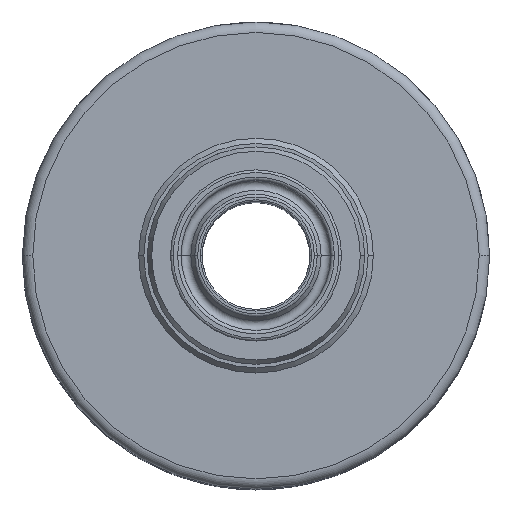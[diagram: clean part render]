
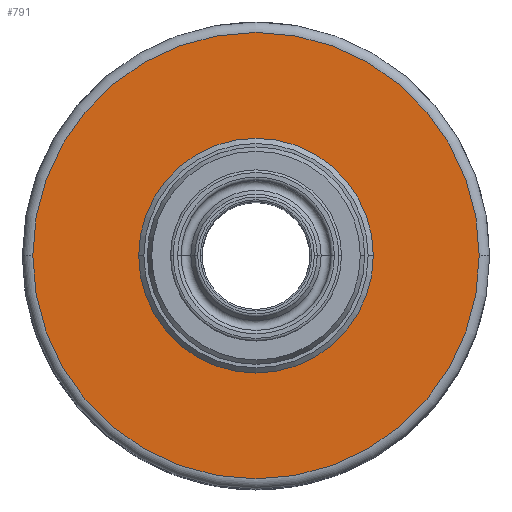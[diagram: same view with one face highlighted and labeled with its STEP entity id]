
A CAD part, top view. The second image highlights one B-rep face of the part: STEP entity #791.
In plain terms, the highlighted planar face has unit normal (0, 0, 1).
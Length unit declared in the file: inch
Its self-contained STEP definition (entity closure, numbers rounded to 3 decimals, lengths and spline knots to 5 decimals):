
#431 = CARTESIAN_POINT ( 'NONE',  ( 0., 0., -0.72 ) ) ;
#432 = DIRECTION ( 'NONE',  ( 0., 0., 1. ) ) ;
#433 = DIRECTION ( 'NONE',  ( 1., 0., 0. ) ) ;
#636 = EDGE_CURVE ( 'NONE', #2314, #2281, #896, .T. ) ;
#639 = EDGE_CURVE ( 'NONE', #2307, #2263, #867, .T. ) ;
#791 = ADVANCED_FACE ( 'NONE', ( #4426, #4428 ), #4429, .F. ) ;
#796 = EDGE_CURVE ( 'NONE', #2263, #2307, #1096, .T. ) ;
#822 = DIRECTION ( 'NONE',  ( 0., 0., 1. ) ) ;
#826 = DIRECTION ( 'NONE',  ( 1., 0., 0. ) ) ;
#831 = DIRECTION ( 'NONE',  ( -1., 0., 0. ) ) ;
#832 = DIRECTION ( 'NONE',  ( 0., 0., 1. ) ) ;
#833 = CARTESIAN_POINT ( 'NONE',  ( 0., 0., -0.72 ) ) ;
#835 = CARTESIAN_POINT ( 'NONE',  ( 0., 0., -0.72 ) ) ;
#867 = CIRCLE ( 'NONE', #910, 1.284 ) ;
#896 = CIRCLE ( 'NONE', #909, 0.675 ) ;
#909 = AXIS2_PLACEMENT_3D ( 'NONE', #835, #822, #826 ) ;
#910 = AXIS2_PLACEMENT_3D ( 'NONE', #833, #832, #831 ) ;
#1094 = AXIS2_PLACEMENT_3D ( 'NONE', #4425, #4423, #4431 ) ;
#1095 = AXIS2_PLACEMENT_3D ( 'NONE', #3651, #3652, #3653 ) ;
#1096 = CIRCLE ( 'NONE', #1095, 1.284 ) ;
#1252 = CIRCLE ( 'NONE', #1277, 0.675 ) ;
#1277 = AXIS2_PLACEMENT_3D ( 'NONE', #431, #432, #433 ) ;
#1772 = EDGE_CURVE ( 'NONE', #2281, #2314, #1252, .T. ) ;
#2263 = VERTEX_POINT ( 'NONE', #4267 ) ;
#2281 = VERTEX_POINT ( 'NONE', #4285 ) ;
#2307 = VERTEX_POINT ( 'NONE', #3877 ) ;
#2314 = VERTEX_POINT ( 'NONE', #3884 ) ;
#2528 = EDGE_LOOP ( 'NONE', ( #3074, #3113 ) ) ;
#2621 = EDGE_LOOP ( 'NONE', ( #3097, #3111 ) ) ;
#3074 = ORIENTED_EDGE ( 'NONE', *, *, #639, .T. ) ;
#3097 = ORIENTED_EDGE ( 'NONE', *, *, #636, .F. ) ;
#3111 = ORIENTED_EDGE ( 'NONE', *, *, #1772, .F. ) ;
#3113 = ORIENTED_EDGE ( 'NONE', *, *, #796, .T. ) ;
#3651 = CARTESIAN_POINT ( 'NONE',  ( 0., 0., -0.72 ) ) ;
#3652 = DIRECTION ( 'NONE',  ( 0., 0., 1. ) ) ;
#3653 = DIRECTION ( 'NONE',  ( -1., 0., 0. ) ) ;
#3877 = CARTESIAN_POINT ( 'NONE',  ( -1.284, 0., -0.72 ) ) ;
#3884 = CARTESIAN_POINT ( 'NONE',  ( -0.675, 0., -0.72 ) ) ;
#4267 = CARTESIAN_POINT ( 'NONE',  ( 1.284, 0., -0.72 ) ) ;
#4285 = CARTESIAN_POINT ( 'NONE',  ( 0.675, 0., -0.72 ) ) ;
#4423 = DIRECTION ( 'NONE',  ( 0., 0., -1. ) ) ;
#4425 = CARTESIAN_POINT ( 'NONE',  ( 0., 0.675, -0.72 ) ) ;
#4426 = FACE_OUTER_BOUND ( 'NONE', #2528, .T. ) ;
#4428 = FACE_BOUND ( 'NONE', #2621, .T. ) ;
#4429 = PLANE ( 'NONE',  #1094 ) ;
#4431 = DIRECTION ( 'NONE',  ( -1., 0., 0. ) ) ;
